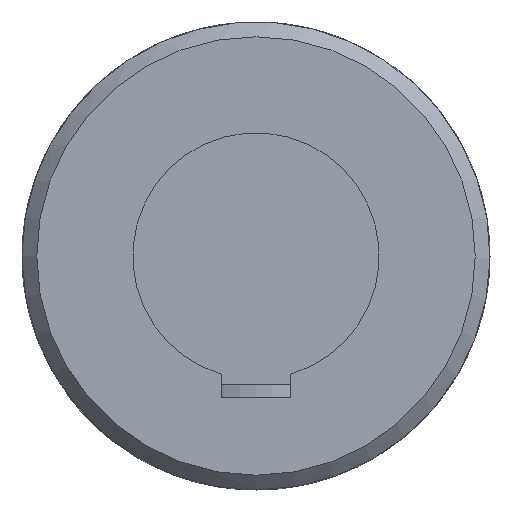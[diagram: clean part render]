
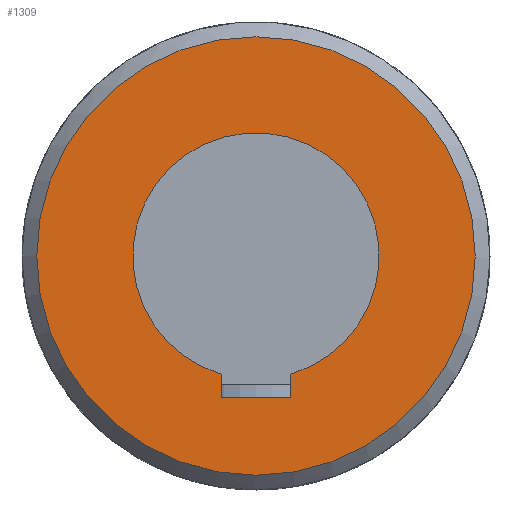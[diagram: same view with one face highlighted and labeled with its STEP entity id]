
A CAD part, front view. The second image highlights one B-rep face of the part: STEP entity #1309.
In plain terms, the highlighted planar face has unit normal (0, -1, 0).
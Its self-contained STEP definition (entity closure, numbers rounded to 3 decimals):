
#145=LINE('',#2431,#194);
#149=LINE('',#2453,#198);
#151=LINE('',#2461,#200);
#194=VECTOR('',#1716,4.8);
#198=VECTOR('',#1728,14.);
#200=VECTOR('',#1732,4.8);
#239=PLANE('',#1448);
#279=FACE_BOUND('',#455,.T.);
#344=FACE_OUTER_BOUND('',#454,.T.);
#454=EDGE_LOOP('',(#1112));
#455=EDGE_LOOP('',(#1113,#1114,#1115,#1116));
#531=CIRCLE('',#1435,25.);
#535=CIRCLE('',#1444,44.5);
#633=VERTEX_POINT('',#2428);
#634=VERTEX_POINT('',#2430);
#637=VERTEX_POINT('',#2440);
#639=VERTEX_POINT('',#2451);
#644=VERTEX_POINT('',#2510);
#790=EDGE_CURVE('',#634,#633,#145,.T.);
#794=EDGE_CURVE('',#637,#634,#531,.T.);
#798=EDGE_CURVE('',#633,#639,#149,.T.);
#801=EDGE_CURVE('',#639,#637,#151,.T.);
#807=EDGE_CURVE('',#644,#644,#535,.T.);
#1112=ORIENTED_EDGE('',*,*,#807,.F.);
#1113=ORIENTED_EDGE('',*,*,#798,.T.);
#1114=ORIENTED_EDGE('',*,*,#801,.T.);
#1115=ORIENTED_EDGE('',*,*,#794,.T.);
#1116=ORIENTED_EDGE('',*,*,#790,.T.);
#1309=ADVANCED_FACE('',(#344,#279),#239,.F.);
#1435=AXIS2_PLACEMENT_3D('',#2441,#1722,#1723);
#1444=AXIS2_PLACEMENT_3D('',#2511,#1745,#1746);
#1448=AXIS2_PLACEMENT_3D('',#2755,#1757,#1758);
#1716=DIRECTION('',(0.,0.,-1.));
#1722=DIRECTION('center_axis',(0.,1.,0.));
#1723=DIRECTION('ref_axis',(0.28,0.,-0.96));
#1728=DIRECTION('',(-1.,0.,0.));
#1732=DIRECTION('',(0.,0.,1.));
#1745=DIRECTION('center_axis',(0.,1.,0.));
#1746=DIRECTION('ref_axis',(1.,0.,0.));
#1757=DIRECTION('center_axis',(0.,1.,0.));
#1758=DIRECTION('ref_axis',(0.,0.,1.));
#2428=CARTESIAN_POINT('',(7.,-118.,-28.8));
#2430=CARTESIAN_POINT('',(7.,-118.,-24.));
#2431=CARTESIAN_POINT('',(7.,-118.,-12.));
#2440=CARTESIAN_POINT('',(-7.,-118.,-24.));
#2441=CARTESIAN_POINT('Origin',(0.,-118.,0.));
#2451=CARTESIAN_POINT('',(-7.,-118.,-28.8));
#2453=CARTESIAN_POINT('',(3.5,-118.,-28.8));
#2461=CARTESIAN_POINT('',(-7.,-118.,-14.4));
#2510=CARTESIAN_POINT('',(-44.5,-118.,0.));
#2511=CARTESIAN_POINT('Origin',(0.,-118.,0.));
#2755=CARTESIAN_POINT('Origin',(0.,-118.,0.));
